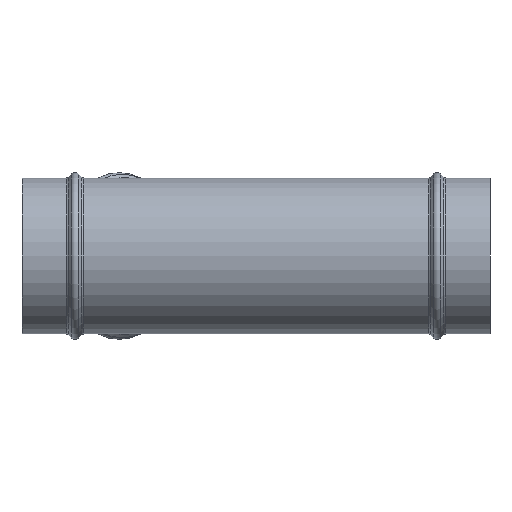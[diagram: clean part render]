
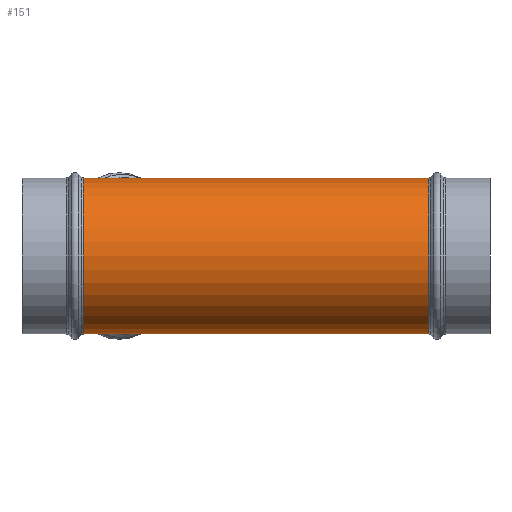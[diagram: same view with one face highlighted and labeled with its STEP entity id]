
A CAD part, front view. The second image highlights one B-rep face of the part: STEP entity #151.
In plain terms, the highlighted cylindrical face has radius 50.8 mm (diameter 101.6 mm), a full revolution.
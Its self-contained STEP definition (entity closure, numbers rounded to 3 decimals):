
#151=ADVANCED_FACE('',(#268,#269,#270),#177,.T.);
#177=CYLINDRICAL_SURFACE('',#638,50.8);
#204=CIRCLE('',#633,50.8);
#205=CIRCLE('',#637,50.8);
#268=FACE_BOUND('',#356,.T.);
#269=FACE_BOUND('',#357,.T.);
#270=FACE_BOUND('',#358,.T.);
#356=EDGE_LOOP('',(#445,#446));
#357=EDGE_LOOP('',(#447));
#358=EDGE_LOOP('',(#448));
#445=ORIENTED_EDGE('',*,*,#563,.T.);
#446=ORIENTED_EDGE('',*,*,#564,.T.);
#447=ORIENTED_EDGE('',*,*,#565,.F.);
#448=ORIENTED_EDGE('',*,*,#562,.T.);
#516=VERTEX_POINT('',#927);
#517=VERTEX_POINT('',#930);
#518=VERTEX_POINT('',#931);
#519=VERTEX_POINT('',#934);
#562=EDGE_CURVE('',#516,#516,#204,.T.);
#563=EDGE_CURVE('',#517,#518,#587,.T.);
#564=EDGE_CURVE('',#518,#517,#588,.T.);
#565=EDGE_CURVE('',#519,#519,#205,.T.);
#587=ELLIPSE('',#635,54.986,50.8);
#588=ELLIPSE('',#636,132.747,50.8);
#633=AXIS2_PLACEMENT_3D('',#926,#767,#768);
#635=AXIS2_PLACEMENT_3D('',#929,#771,#772);
#636=AXIS2_PLACEMENT_3D('',#932,#773,#774);
#637=AXIS2_PLACEMENT_3D('',#933,#775,#776);
#638=AXIS2_PLACEMENT_3D('',#935,#777,#778);
#767=DIRECTION('',(1.,0.,0.));
#768=DIRECTION('',(0.,0.,-1.));
#771=DIRECTION('',(0.924,-0.383,0.));
#772=DIRECTION('',(0.383,0.924,0.));
#773=DIRECTION('',(-0.383,-0.924,0.));
#774=DIRECTION('',(0.924,-0.383,0.));
#775=DIRECTION('',(1.,0.,0.));
#776=DIRECTION('',(0.,0.,-1.));
#777=DIRECTION('',(1.,0.,0.));
#778=DIRECTION('',(0.,0.,-1.));
#926=CARTESIAN_POINT('',(40.071,0.,0.));
#927=CARTESIAN_POINT('',(40.071,0.,-50.8));
#929=CARTESIAN_POINT('',(213.,0.,0.));
#930=CARTESIAN_POINT('',(213.,0.,-50.8));
#931=CARTESIAN_POINT('',(213.,0.,50.8));
#932=CARTESIAN_POINT('',(213.,0.,0.));
#933=CARTESIAN_POINT('',(264.929,0.,0.));
#934=CARTESIAN_POINT('',(264.929,0.,-50.8));
#935=CARTESIAN_POINT('',(0.,0.,0.));
